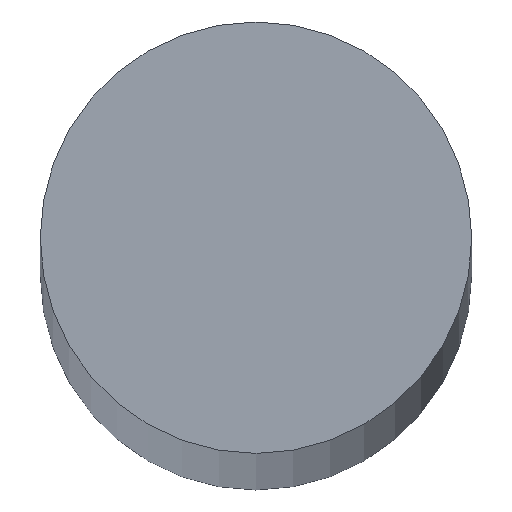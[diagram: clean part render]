
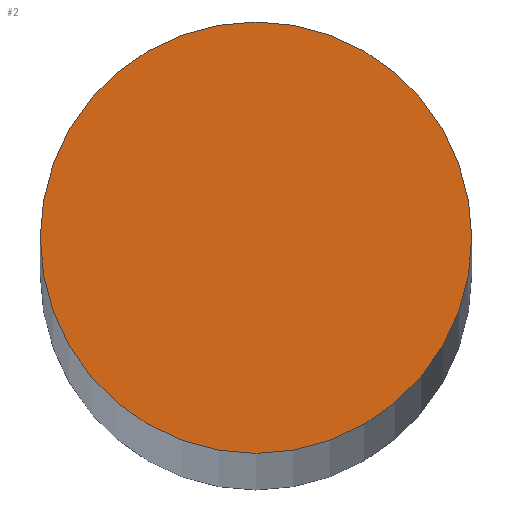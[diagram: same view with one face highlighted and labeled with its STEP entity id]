
A CAD part, top view. The second image highlights one B-rep face of the part: STEP entity #2.
In plain terms, the highlighted planar face has unit normal (0, 0, 1).
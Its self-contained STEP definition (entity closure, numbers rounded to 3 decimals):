
#2 = ADVANCED_FACE ( 'NONE', ( #106 ), #140, .T. ) ;
#7 = CARTESIAN_POINT ( 'NONE',  ( 0., 0., 291.5 ) ) ;
#11 = DIRECTION ( 'NONE',  ( 0., 0., 1. ) ) ;
#12 = DIRECTION ( 'NONE',  ( 1., 0., 0. ) ) ;
#18 = CARTESIAN_POINT ( 'NONE',  ( 0., 0., 291.5 ) ) ;
#24 = CARTESIAN_POINT ( 'NONE',  ( 0., 0., 291.5 ) ) ;
#25 = DIRECTION ( 'NONE',  ( 0., 0., 1. ) ) ;
#26 = DIRECTION ( 'NONE',  ( 1., 0., 0. ) ) ;
#28 = CARTESIAN_POINT ( 'NONE',  ( -6., 0., 291.5 ) ) ;
#35 = DIRECTION ( 'NONE',  ( 0., 0., 1. ) ) ;
#36 = DIRECTION ( 'NONE',  ( 1., 0., 0. ) ) ;
#44 = CARTESIAN_POINT ( 'NONE',  ( 6., 0., 291.5 ) ) ;
#69 = AXIS2_PLACEMENT_3D ( 'NONE', #24, #25, #26 ) ;
#72 = EDGE_CURVE ( 'NONE', #139, #135, #116, .T. ) ;
#75 = AXIS2_PLACEMENT_3D ( 'NONE', #18, #35, #36 ) ;
#78 = AXIS2_PLACEMENT_3D ( 'NONE', #7, #11, #12 ) ;
#82 = EDGE_CURVE ( 'NONE', #135, #139, #119, .T. ) ;
#95 = ORIENTED_EDGE ( 'NONE', *, *, #82, .T. ) ;
#96 = ORIENTED_EDGE ( 'NONE', *, *, #72, .T. ) ;
#101 = EDGE_LOOP ( 'NONE', ( #95, #96 ) ) ;
#106 = FACE_OUTER_BOUND ( 'NONE', #101, .T. ) ;
#116 = CIRCLE ( 'NONE', #69, 6. ) ;
#119 = CIRCLE ( 'NONE', #75, 6. ) ;
#135 = VERTEX_POINT ( 'NONE', #28 ) ;
#139 = VERTEX_POINT ( 'NONE', #44 ) ;
#140 = PLANE ( 'NONE',  #78 ) ;
